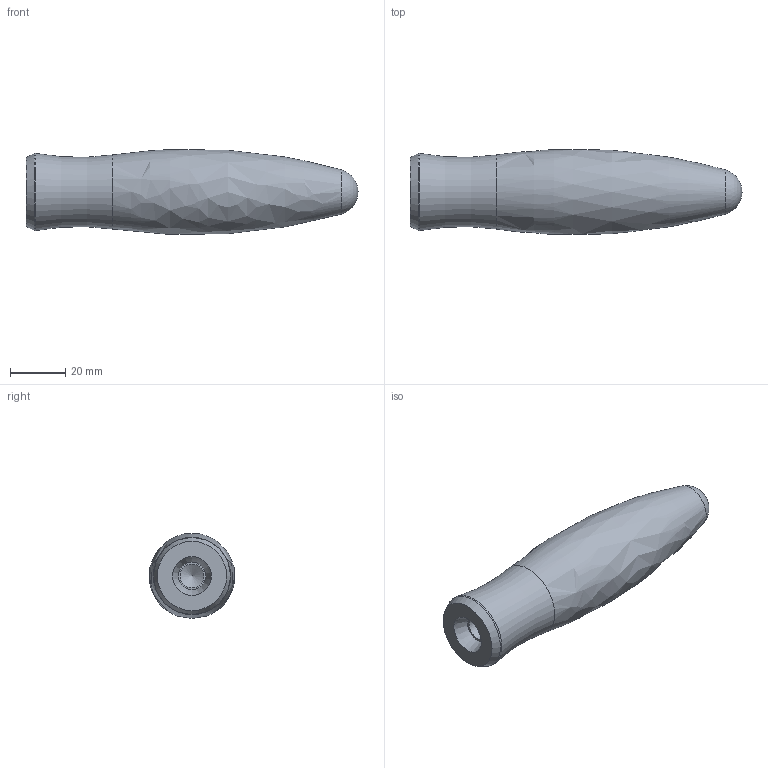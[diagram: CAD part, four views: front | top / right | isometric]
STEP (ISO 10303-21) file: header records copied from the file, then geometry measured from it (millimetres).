
FILE_DESCRIPTION( ('This file contains a STEP AP42 implementation' ,'as created by ZW3D STEP Interface translator.') ,'2;1' );
FILE_NAME( 'RF 32.124.stp' ,'26 811.1228 5', (''), ('ZWCAD Software Co.'), 'Version 1.0', 'ZW3D to STEP translator', '' );
FILE_SCHEMA(('AP242_MANAGED_MODEL_BASED_3D_ENGINEERING_MIM_LF { 1 0 10303 442 1 1 4 }'));
Length unit declared in the file: millimetre
Products named in the file (1): 0
Bounding box: 120 x 30.56 x 30.67 mm (x, y, z)
Volume: 60558.9 mm3; surface area: 13201.9 mm2
Topology: 1 solids, 1 shells, 11 faces, 21 edges, 12 vertices
Faces by surface type: cone 3, torus 2, plane 2, cylinder 2, bspline 1, sphere 1
Full cylindrical faces by diameter (mm): 8.5 x2
Entity records: 331 total; most frequent: CARTESIAN_POINT 69, DIRECTION 55, ORIENTED_EDGE 38, AXIS2_PLACEMENT_3D 25, EDGE_CURVE 19, CIRCLE 14, EDGE_LOOP 13, VERTEX_POINT 12
